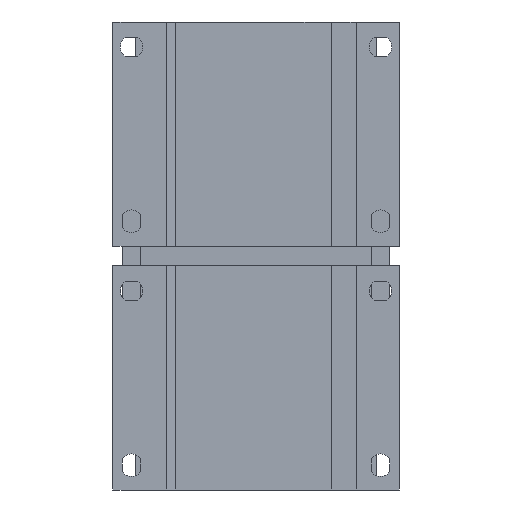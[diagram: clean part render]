
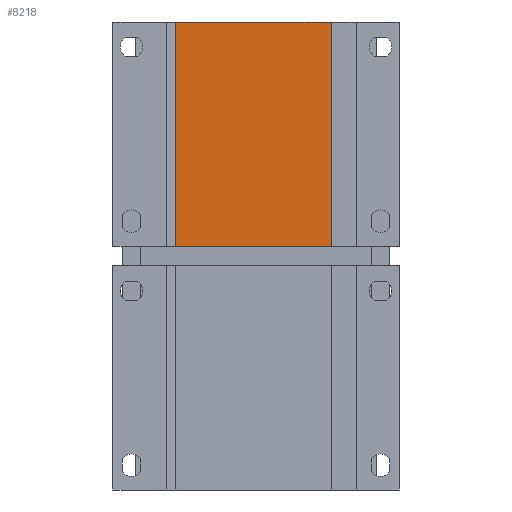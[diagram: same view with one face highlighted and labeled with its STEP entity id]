
A CAD part, front view. The second image highlights one B-rep face of the part: STEP entity #8218.
In plain terms, the highlighted planar face has unit normal (0, -1, 0).
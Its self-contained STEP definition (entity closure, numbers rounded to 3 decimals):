
#394 = LINE ( 'NONE', #9932, #8060 ) ;
#723 = EDGE_CURVE ( 'NONE', #12200, #4181, #13348, .T. ) ;
#826 = VECTOR ( 'NONE', #10198, 1000. ) ;
#1429 = EDGE_CURVE ( 'NONE', #4299, #12200, #394, .T. ) ;
#2328 = AXIS2_PLACEMENT_3D ( 'NONE', #8631, #10732, #4459 ) ;
#3066 = EDGE_CURVE ( 'NONE', #4421, #4299, #8645, .T. ) ;
#3075 = ORIENTED_EDGE ( 'NONE', *, *, #3066, .T. ) ;
#3750 = EDGE_LOOP ( 'NONE', ( #11181, #11787, #3075, #10619 ) ) ;
#3932 = CARTESIAN_POINT ( 'NONE',  ( 750.282, 151.329, 49. ) ) ;
#4181 = VERTEX_POINT ( 'NONE', #11411 ) ;
#4299 = VERTEX_POINT ( 'NONE', #7650 ) ;
#4421 = VERTEX_POINT ( 'NONE', #7828 ) ;
#4459 = DIRECTION ( 'NONE',  ( 0., 0., -1. ) ) ;
#4565 = EDGE_CURVE ( 'NONE', #4181, #4421, #6058, .T. ) ;
#4980 = VECTOR ( 'NONE', #12534, 1000. ) ;
#5395 = CARTESIAN_POINT ( 'NONE',  ( 767.556, 151.329, 4. ) ) ;
#6058 = LINE ( 'NONE', #3932, #826 ) ;
#6848 = DIRECTION ( 'NONE',  ( 0., 0., 1. ) ) ;
#7328 = CARTESIAN_POINT ( 'NONE',  ( 750.282, 151.329, 49. ) ) ;
#7650 = CARTESIAN_POINT ( 'NONE',  ( 784.982, 151.329, 4. ) ) ;
#7828 = CARTESIAN_POINT ( 'NONE',  ( 750.282, 151.329, 4. ) ) ;
#8060 = VECTOR ( 'NONE', #6848, 1000. ) ;
#8218 = ADVANCED_FACE ( 'NONE', ( #9256 ), #12814, .T. ) ;
#8322 = VECTOR ( 'NONE', #8557, 1000. ) ;
#8557 = DIRECTION ( 'NONE',  ( 1., 0., 0. ) ) ;
#8631 = CARTESIAN_POINT ( 'NONE',  ( 750.282, 151.329, 49. ) ) ;
#8645 = LINE ( 'NONE', #5395, #8322 ) ;
#9256 = FACE_OUTER_BOUND ( 'NONE', #3750, .T. ) ;
#9932 = CARTESIAN_POINT ( 'NONE',  ( 784.982, 151.329, 49. ) ) ;
#10198 = DIRECTION ( 'NONE',  ( 0., 0., -1. ) ) ;
#10619 = ORIENTED_EDGE ( 'NONE', *, *, #1429, .T. ) ;
#10698 = CARTESIAN_POINT ( 'NONE',  ( 784.982, 151.329, 49. ) ) ;
#10732 = DIRECTION ( 'NONE',  ( 0., -1., 0. ) ) ;
#11181 = ORIENTED_EDGE ( 'NONE', *, *, #723, .T. ) ;
#11411 = CARTESIAN_POINT ( 'NONE',  ( 750.282, 151.329, 49. ) ) ;
#11787 = ORIENTED_EDGE ( 'NONE', *, *, #4565, .T. ) ;
#12200 = VERTEX_POINT ( 'NONE', #10698 ) ;
#12534 = DIRECTION ( 'NONE',  ( -1., 0., 0. ) ) ;
#12814 = PLANE ( 'NONE',  #2328 ) ;
#13348 = LINE ( 'NONE', #7328, #4980 ) ;
